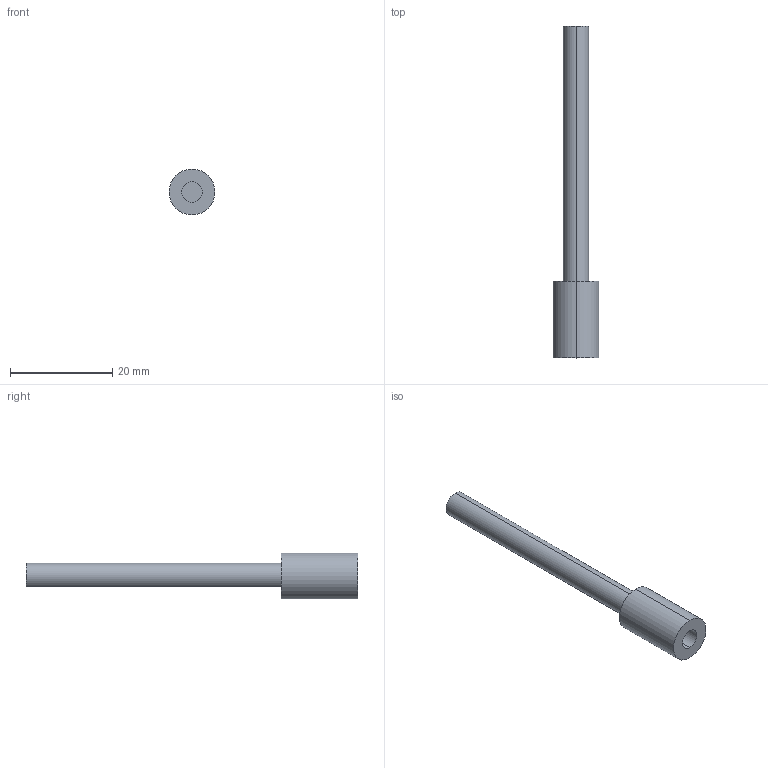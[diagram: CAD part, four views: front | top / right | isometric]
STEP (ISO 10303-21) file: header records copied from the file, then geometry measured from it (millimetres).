
FILE_DESCRIPTION (( 'STEP AP214' ), '1' );
FILE_NAME ('B.STEP', '2023-05-04T07:53:41', ( 'ay' ), ( '' ), 'SwSTEP 2.0', 'SolidWorks 2020', '' );
FILE_SCHEMA (( 'AUTOMOTIVE_DESIGN' ));
Length unit declared in the file: millimetre
Products named in the file (1): B
Bounding box: 9 x 65 x 9 mm (x, y, z)
Volume: 1734.1 mm3; surface area: 1476.7 mm2
Topology: 1 solids, 1 shells, 11 faces, 21 edges, 14 vertices
Faces by surface type: cylinder 6, plane 5
Entity records: 321 total; most frequent: DIRECTION 57, CARTESIAN_POINT 47, ORIENTED_EDGE 42, AXIS2_PLACEMENT_3D 24, EDGE_CURVE 21, VERTEX_POINT 14, EDGE_LOOP 13, CIRCLE 12
